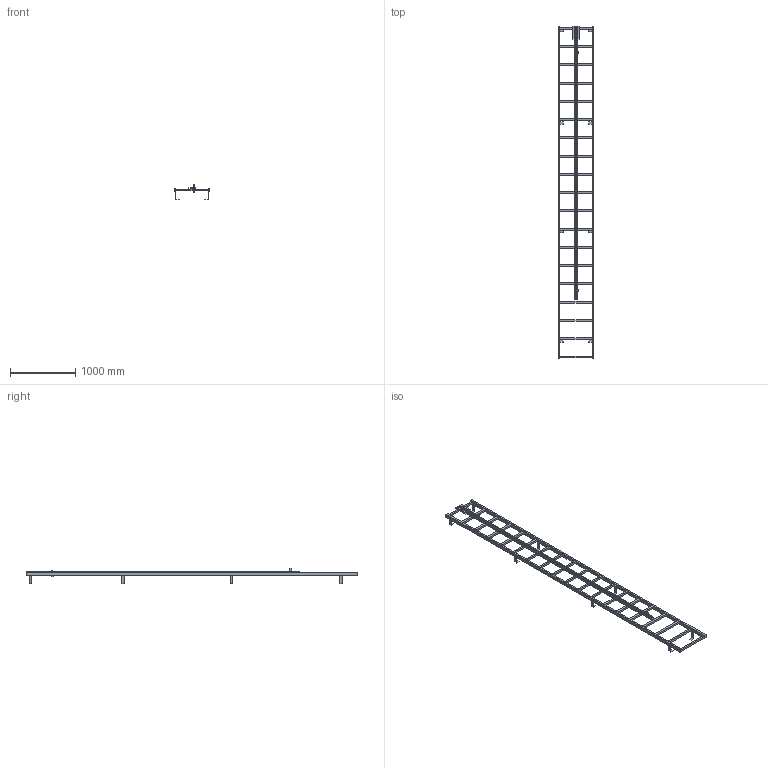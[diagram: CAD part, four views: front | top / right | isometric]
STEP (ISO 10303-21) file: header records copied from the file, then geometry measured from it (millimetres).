
FILE_DESCRIPTION((''),'2;1');
FILE_NAME('52330203','2024-12-05T09:13:00',('wep'),('HUBER SE'),'CREO PARAMETRIC BY PTC INC, 2022162','CREO PARAMETRIC BY PTC INC, 2022162','');
FILE_SCHEMA(('AUTOMOTIVE_DESIGN { 1 0 10303 214 1 1 1 1 }'));
Length unit declared in the file: millimetre
Products named in the file (1): 52330203
Bounding box: 550 x 5090 x 239 mm (x, y, z)
Volume: 23788853.8 mm3; surface area: 4048055.5 mm2
Topology: 2 solids, 2 shells, 320 faces, 936 edges, 614 vertices
Faces by surface type: plane 320
Entity records: 11107 total; most frequent: CARTESIAN_POINT 1872, ORIENTED_EDGE 1872, DIRECTION 1576, VECTOR 936, LINE 936, EDGE_CURVE 936, VERTEX_POINT 614, EDGE_LOOP 414
